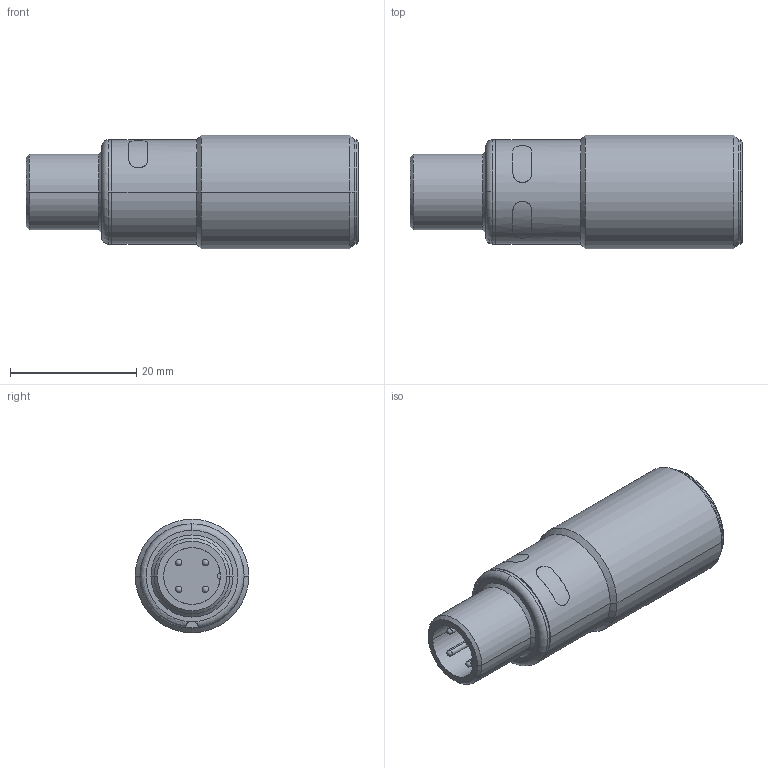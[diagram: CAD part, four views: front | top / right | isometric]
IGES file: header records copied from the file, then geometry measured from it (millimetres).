
Global section: file name: No Iges File Name specified; native system: Autodesk Inventor 2009; preprocessor: AutoDesk Inventor Iges Exporter R2009; author: Oliver Liedtke; date: 20120227.115403; units: millimetre
Bounding box: 52.57 x 18 x 18 mm (x, y, z)
Volume: 10518.9 mm3; surface area: 3407.3 mm2
Topology: 1 solids, 1 shells, 64 faces, 147 edges, 89 vertices
Faces by surface type: cylinder 25, plane 14, cone 8, revolution 5, torus 4, bspline 4, sphere 4
